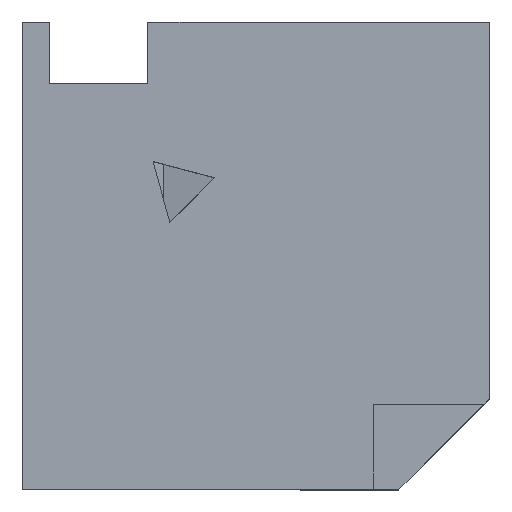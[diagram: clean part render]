
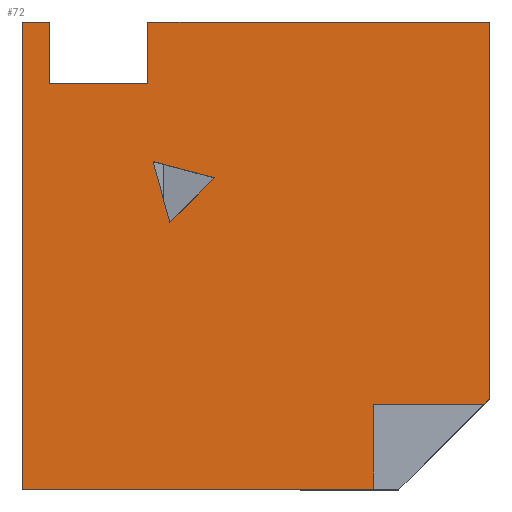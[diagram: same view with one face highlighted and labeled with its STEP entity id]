
A CAD part, top view. The second image highlights one B-rep face of the part: STEP entity #72.
In plain terms, the highlighted planar face has unit normal (0, 0, 1).
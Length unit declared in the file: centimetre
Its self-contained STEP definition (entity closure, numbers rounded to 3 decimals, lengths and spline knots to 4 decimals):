
#1 = EDGE_CURVE ( 'NONE', #951, #1269, #640, .T. ) ;
#16 = EDGE_CURVE ( 'NONE', #861, #329, #365, .T. ) ;
#19 = ORIENTED_EDGE ( 'NONE', *, *, #1329, .F. ) ;
#28 = VERTEX_POINT ( 'NONE', #933 ) ;
#54 = PLANE ( 'NONE',  #1069 ) ;
#68 = CARTESIAN_POINT ( 'NONE',  ( 0., 1000., 1000. ) ) ;
#72 = ADVANCED_FACE ( 'NONE', ( #144, #1172 ), #54, .T. ) ;
#79 = EDGE_CURVE ( 'NONE', #828, #1027, #833, .T. ) ;
#80 = ORIENTED_EDGE ( 'NONE', *, *, #676, .T. ) ;
#83 = VECTOR ( 'NONE', #1137, 100. ) ;
#99 = ORIENTED_EDGE ( 'NONE', *, *, #503, .F. ) ;
#104 = VECTOR ( 'NONE', #689, 100. ) ;
#115 = CARTESIAN_POINT ( 'NONE',  ( 751.615, 0., 1000. ) ) ;
#119 = ORIENTED_EDGE ( 'NONE', *, *, #652, .T. ) ;
#122 = VECTOR ( 'NONE', #583, 100. ) ;
#144 = FACE_BOUND ( 'NONE', #1019, .T. ) ;
#148 = LINE ( 'NONE', #708, #924 ) ;
#159 = CARTESIAN_POINT ( 'NONE',  ( 1000., 1000., 1000. ) ) ;
#160 = CARTESIAN_POINT ( 'NONE',  ( 0., 0., 1000. ) ) ;
#241 = VECTOR ( 'NONE', #346, 100. ) ;
#246 = CARTESIAN_POINT ( 'NONE',  ( 279.5754, 701.2418, 1000. ) ) ;
#275 = ORIENTED_EDGE ( 'NONE', *, *, #511, .T. ) ;
#329 = VERTEX_POINT ( 'NONE', #115 ) ;
#333 = VECTOR ( 'NONE', #1304, 100. ) ;
#344 = CARTESIAN_POINT ( 'NONE',  ( 411.2162, 666.5574, 1000. ) ) ;
#346 = DIRECTION ( 'NONE',  ( -1., 0., 0. ) ) ;
#355 = CARTESIAN_POINT ( 'NONE',  ( 751.615, 181.8477, 1000. ) ) ;
#356 = DIRECTION ( 'NONE',  ( 0., 0., 1. ) ) ;
#365 = LINE ( 'NONE', #591, #104 ) ;
#370 = DIRECTION ( 'NONE',  ( 1., 0., 0. ) ) ;
#371 = DIRECTION ( 'NONE',  ( -0.967, 0.255, 0. ) ) ;
#375 = CARTESIAN_POINT ( 'NONE',  ( 0., 0., 1000. ) ) ;
#401 = ORIENTED_EDGE ( 'NONE', *, *, #614, .T. ) ;
#403 = VECTOR ( 'NONE', #371, 100. ) ;
#416 = CARTESIAN_POINT ( 'NONE',  ( 402.9698, -402.9698, 1000. ) ) ;
#420 = VERTEX_POINT ( 'NONE', #806 ) ;
#423 = CARTESIAN_POINT ( 'NONE',  ( 58.9086, 1000., 1000. ) ) ;
#425 = VERTEX_POINT ( 'NONE', #159 ) ;
#503 = EDGE_CURVE ( 'NONE', #1269, #1453, #710, .T. ) ;
#507 = CARTESIAN_POINT ( 'NONE',  ( 0., 1000., 1000. ) ) ;
#511 = EDGE_CURVE ( 'NONE', #425, #420, #1035, .T. ) ;
#520 = VECTOR ( 'NONE', #925, 100. ) ;
#534 = EDGE_CURVE ( 'NONE', #1016, #723, #599, .T. ) ;
#583 = DIRECTION ( 'NONE',  ( 0.267, -0.964, 0. ) ) ;
#584 = CARTESIAN_POINT ( 'NONE',  ( 58.9086, 868.0407, 1000. ) ) ;
#591 = CARTESIAN_POINT ( 'NONE',  ( 0., 0., 1000. ) ) ;
#599 = LINE ( 'NONE', #355, #1408 ) ;
#603 = CARTESIAN_POINT ( 'NONE',  ( 751.615, 181.8477, 1000. ) ) ;
#614 = EDGE_CURVE ( 'NONE', #828, #685, #1326, .T. ) ;
#628 = CARTESIAN_POINT ( 'NONE',  ( 0., 1000., 1000. ) ) ;
#631 = ORIENTED_EDGE ( 'NONE', *, *, #855, .F. ) ;
#640 = LINE ( 'NONE', #697, #403 ) ;
#652 = EDGE_CURVE ( 'NONE', #685, #861, #733, .T. ) ;
#655 = CARTESIAN_POINT ( 'NONE',  ( 268.7, 868.0407, 1000. ) ) ;
#669 = CARTESIAN_POINT ( 'NONE',  ( 279.5754, 701.2418, 1000. ) ) ;
#676 = EDGE_CURVE ( 'NONE', #723, #28, #727, .T. ) ;
#681 = CARTESIAN_POINT ( 'NONE',  ( 315.6525, 570.9937, 1000. ) ) ;
#685 = VERTEX_POINT ( 'NONE', #68 ) ;
#689 = DIRECTION ( 'NONE',  ( 1., 0., 0. ) ) ;
#690 = VECTOR ( 'NONE', #1024, 100. ) ;
#697 = CARTESIAN_POINT ( 'NONE',  ( 411.2162, 666.5574, 1000. ) ) ;
#698 = EDGE_CURVE ( 'NONE', #28, #425, #869, .T. ) ;
#700 = ORIENTED_EDGE ( 'NONE', *, *, #534, .T. ) ;
#708 = CARTESIAN_POINT ( 'NONE',  ( 268.7, 868.0407, 1000. ) ) ;
#710 = LINE ( 'NONE', #246, #122 ) ;
#711 = VECTOR ( 'NONE', #944, 100. ) ;
#723 = VERTEX_POINT ( 'NONE', #1225 ) ;
#724 = CARTESIAN_POINT ( 'NONE',  ( 58.9086, 868.0407, 1000. ) ) ;
#727 = LINE ( 'NONE', #416, #756 ) ;
#733 = LINE ( 'NONE', #507, #711 ) ;
#736 = ORIENTED_EDGE ( 'NONE', *, *, #1138, .F. ) ;
#756 = VECTOR ( 'NONE', #1201, 100. ) ;
#758 = DIRECTION ( 'NONE',  ( 1., 0., 0. ) ) ;
#790 = ORIENTED_EDGE ( 'NONE', *, *, #872, .F. ) ;
#793 = ORIENTED_EDGE ( 'NONE', *, *, #698, .T. ) ;
#806 = CARTESIAN_POINT ( 'NONE',  ( 268.7, 1000., 1000. ) ) ;
#828 = VERTEX_POINT ( 'NONE', #423 ) ;
#833 = LINE ( 'NONE', #584, #520 ) ;
#855 = EDGE_CURVE ( 'NONE', #1016, #329, #1375, .T. ) ;
#861 = VERTEX_POINT ( 'NONE', #375 ) ;
#869 = LINE ( 'NONE', #1297, #1095 ) ;
#872 = EDGE_CURVE ( 'NONE', #1131, #420, #148, .T. ) ;
#912 = ORIENTED_EDGE ( 'NONE', *, *, #1, .F. ) ;
#924 = VECTOR ( 'NONE', #1277, 100. ) ;
#925 = DIRECTION ( 'NONE',  ( 0., -1., 0. ) ) ;
#933 = CARTESIAN_POINT ( 'NONE',  ( 1000., 194.0604, 1000. ) ) ;
#934 = CARTESIAN_POINT ( 'NONE',  ( 315.6525, 570.9937, 1000. ) ) ;
#944 = DIRECTION ( 'NONE',  ( 0., -1., 0. ) ) ;
#951 = VERTEX_POINT ( 'NONE', #344 ) ;
#1005 = ORIENTED_EDGE ( 'NONE', *, *, #16, .T. ) ;
#1009 = CARTESIAN_POINT ( 'NONE',  ( 58.9086, 868.0407, 1000. ) ) ;
#1016 = VERTEX_POINT ( 'NONE', #603 ) ;
#1019 = EDGE_LOOP ( 'NONE', ( #99, #912, #19 ) ) ;
#1024 = DIRECTION ( 'NONE',  ( 0.707, 0.707, 0. ) ) ;
#1027 = VERTEX_POINT ( 'NONE', #724 ) ;
#1035 = LINE ( 'NONE', #1155, #241 ) ;
#1069 = AXIS2_PLACEMENT_3D ( 'NONE', #160, #356, #1389 ) ;
#1072 = VECTOR ( 'NONE', #758, 100. ) ;
#1084 = DIRECTION ( 'NONE',  ( 0., 1., 0. ) ) ;
#1095 = VECTOR ( 'NONE', #1084, 100. ) ;
#1131 = VERTEX_POINT ( 'NONE', #655 ) ;
#1137 = DIRECTION ( 'NONE',  ( 0., -1., 0. ) ) ;
#1138 = EDGE_CURVE ( 'NONE', #1027, #1131, #1212, .T. ) ;
#1154 = CARTESIAN_POINT ( 'NONE',  ( 751.615, 0., 1000. ) ) ;
#1155 = CARTESIAN_POINT ( 'NONE',  ( 0., 1000., 1000. ) ) ;
#1172 = FACE_OUTER_BOUND ( 'NONE', #1229, .T. ) ;
#1201 = DIRECTION ( 'NONE',  ( 0.707, 0.707, 0. ) ) ;
#1211 = ORIENTED_EDGE ( 'NONE', *, *, #79, .F. ) ;
#1212 = LINE ( 'NONE', #1009, #1072 ) ;
#1225 = CARTESIAN_POINT ( 'NONE',  ( 987.7873, 181.8477, 1000. ) ) ;
#1229 = EDGE_LOOP ( 'NONE', ( #700, #80, #793, #275, #790, #736, #1211, #401, #119, #1005, #631 ) ) ;
#1268 = LINE ( 'NONE', #681, #690 ) ;
#1269 = VERTEX_POINT ( 'NONE', #669 ) ;
#1277 = DIRECTION ( 'NONE',  ( 0., 1., 0. ) ) ;
#1297 = CARTESIAN_POINT ( 'NONE',  ( 1000., 1000., 1000. ) ) ;
#1304 = DIRECTION ( 'NONE',  ( -1., 0., 0. ) ) ;
#1326 = LINE ( 'NONE', #628, #333 ) ;
#1329 = EDGE_CURVE ( 'NONE', #1453, #951, #1268, .T. ) ;
#1375 = LINE ( 'NONE', #1154, #83 ) ;
#1389 = DIRECTION ( 'NONE',  ( 1., 0., 0. ) ) ;
#1408 = VECTOR ( 'NONE', #370, 100. ) ;
#1453 = VERTEX_POINT ( 'NONE', #934 ) ;
